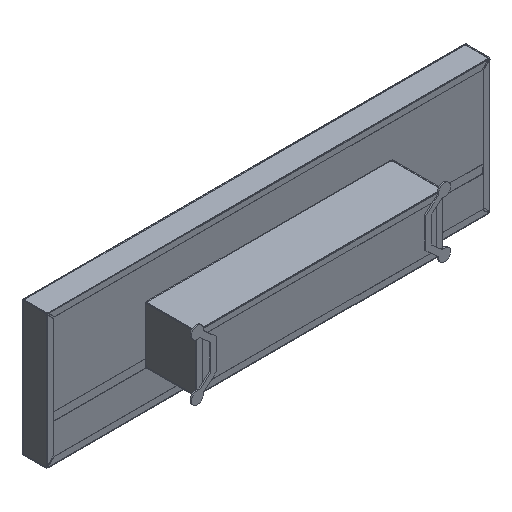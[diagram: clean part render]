
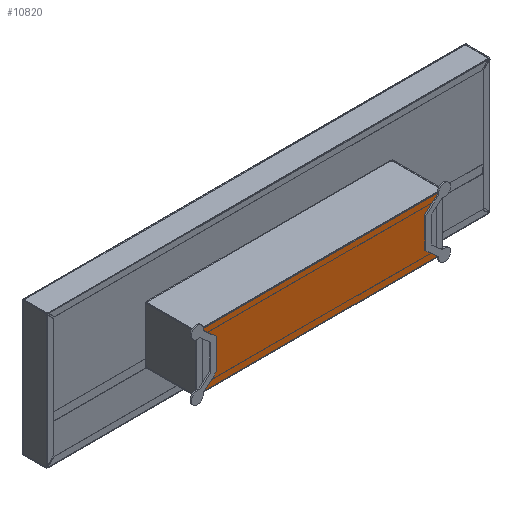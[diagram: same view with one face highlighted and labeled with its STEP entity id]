
A CAD part, isometric view. The second image highlights one B-rep face of the part: STEP entity #10820.
In plain terms, the highlighted planar face has unit normal (0, -1, 0).
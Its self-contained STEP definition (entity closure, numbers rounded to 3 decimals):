
#20 = ORIENTED_EDGE ( 'NONE', *, *, #9102, .F. ) ;
#182 = VECTOR ( 'NONE', #1258, 1000. ) ;
#681 = LINE ( 'NONE', #4247, #12807 ) ;
#814 = EDGE_CURVE ( 'NONE', #5509, #2385, #14401, .T. ) ;
#893 = ORIENTED_EDGE ( 'NONE', *, *, #13949, .F. ) ;
#910 = CARTESIAN_POINT ( 'NONE',  ( 437.639, -1.25, -102.5 ) ) ;
#970 = VECTOR ( 'NONE', #14896, 1000. ) ;
#1201 = CARTESIAN_POINT ( 'NONE',  ( 0., -1.25, 0. ) ) ;
#1216 = CIRCLE ( 'NONE', #12884, 22.5 ) ;
#1219 = EDGE_CURVE ( 'NONE', #9656, #5509, #3533, .T. ) ;
#1246 = DIRECTION ( 'NONE',  ( 0., 0., -1. ) ) ;
#1258 = DIRECTION ( 'NONE',  ( -0.755, 0., 0.656 ) ) ;
#1694 = CIRCLE ( 'NONE', #3154, 22.5 ) ;
#1776 = DIRECTION ( 'NONE',  ( 1., 0., 0. ) ) ;
#2022 = DIRECTION ( 'NONE',  ( 0., 1., 0. ) ) ;
#2102 = CARTESIAN_POINT ( 'NONE',  ( -460., -1.25, 105. ) ) ;
#2126 = CARTESIAN_POINT ( 'NONE',  ( -390., -1.25, 57.4 ) ) ;
#2385 = VERTEX_POINT ( 'NONE', #4465 ) ;
#2492 = DIRECTION ( 'NONE',  ( 0., 0., -1. ) ) ;
#2611 = EDGE_CURVE ( 'NONE', #8231, #11429, #13369, .T. ) ;
#2816 = ORIENTED_EDGE ( 'NONE', *, *, #8618, .F. ) ;
#2938 = DIRECTION ( 'NONE',  ( 0., -1., 0. ) ) ;
#3154 = AXIS2_PLACEMENT_3D ( 'NONE', #13516, #2938, #4152 ) ;
#3158 = CARTESIAN_POINT ( 'NONE',  ( 436.044, -1.25, 97.426 ) ) ;
#3217 = VERTEX_POINT ( 'NONE', #3671 ) ;
#3533 = CIRCLE ( 'NONE', #8142, 22.5 ) ;
#3650 = CIRCLE ( 'NONE', #9485, 22.5 ) ;
#3671 = CARTESIAN_POINT ( 'NONE',  ( -437.639, -1.25, 102.5 ) ) ;
#4152 = DIRECTION ( 'NONE',  ( 0.275, 0., 0.962 ) ) ;
#4247 = CARTESIAN_POINT ( 'NONE',  ( -436.044, -1.25, 97.426 ) ) ;
#4465 = CARTESIAN_POINT ( 'NONE',  ( -437.639, -1.25, -102.5 ) ) ;
#4517 = ORIENTED_EDGE ( 'NONE', *, *, #12835, .T. ) ;
#4533 = CARTESIAN_POINT ( 'NONE',  ( -438.228, -1.25, 99.324 ) ) ;
#4596 = CARTESIAN_POINT ( 'NONE',  ( 390., -1.25, 46.007 ) ) ;
#4816 = EDGE_CURVE ( 'NONE', #11429, #4896, #11451, .T. ) ;
#4863 = DIRECTION ( 'NONE',  ( 0., 0., 1. ) ) ;
#4896 = VERTEX_POINT ( 'NONE', #14123 ) ;
#5304 = ORIENTED_EDGE ( 'NONE', *, *, #11254, .T. ) ;
#5509 = VERTEX_POINT ( 'NONE', #910 ) ;
#5534 = ORIENTED_EDGE ( 'NONE', *, *, #814, .F. ) ;
#5872 = ORIENTED_EDGE ( 'NONE', *, *, #1219, .F. ) ;
#5952 = VECTOR ( 'NONE', #6644, 1000. ) ;
#6151 = ORIENTED_EDGE ( 'NONE', *, *, #10668, .T. ) ;
#6159 = CARTESIAN_POINT ( 'NONE',  ( -457.5, -1.25, -102.5 ) ) ;
#6628 = VECTOR ( 'NONE', #1246, 1000. ) ;
#6644 = DIRECTION ( 'NONE',  ( -0.755, 0., -0.656 ) ) ;
#6667 = DIRECTION ( 'NONE',  ( 0.755, 0., -0.656 ) ) ;
#6964 = DIRECTION ( 'NONE',  ( 0., -1., 0. ) ) ;
#7139 = CARTESIAN_POINT ( 'NONE',  ( -390., -1.25, -46.007 ) ) ;
#7721 = ORIENTED_EDGE ( 'NONE', *, *, #8453, .F. ) ;
#8142 = AXIS2_PLACEMENT_3D ( 'NONE', #14168, #8371, #11943 ) ;
#8231 = VERTEX_POINT ( 'NONE', #10741 ) ;
#8371 = DIRECTION ( 'NONE',  ( 0., -1., 0. ) ) ;
#8389 = VERTEX_POINT ( 'NONE', #2126 ) ;
#8421 = VECTOR ( 'NONE', #14183, 1000. ) ;
#8444 = CARTESIAN_POINT ( 'NONE',  ( 437.639, -1.25, 102.5 ) ) ;
#8453 = EDGE_CURVE ( 'NONE', #13204, #8389, #12865, .T. ) ;
#8457 = VERTEX_POINT ( 'NONE', #8444 ) ;
#8535 = CARTESIAN_POINT ( 'NONE',  ( -390., -1.25, -57.4 ) ) ;
#8618 = EDGE_CURVE ( 'NONE', #2385, #9900, #1694, .T. ) ;
#8774 = EDGE_CURVE ( 'NONE', #9900, #13204, #9942, .T. ) ;
#8801 = ORIENTED_EDGE ( 'NONE', *, *, #4816, .F. ) ;
#8860 = CARTESIAN_POINT ( 'NONE',  ( 390., -1.25, 57.4 ) ) ;
#9102 = EDGE_CURVE ( 'NONE', #8457, #8231, #3650, .T. ) ;
#9113 = FACE_OUTER_BOUND ( 'NONE', #11651, .T. ) ;
#9192 = VECTOR ( 'NONE', #4863, 1000. ) ;
#9442 = ORIENTED_EDGE ( 'NONE', *, *, #8774, .F. ) ;
#9485 = AXIS2_PLACEMENT_3D ( 'NONE', #11259, #6964, #13984 ) ;
#9656 = VERTEX_POINT ( 'NONE', #14187 ) ;
#9774 = LINE ( 'NONE', #10990, #14363 ) ;
#9900 = VERTEX_POINT ( 'NONE', #10592 ) ;
#9942 = LINE ( 'NONE', #14593, #970 ) ;
#10254 = VERTEX_POINT ( 'NONE', #4533 ) ;
#10592 = CARTESIAN_POINT ( 'NONE',  ( -438.228, -1.25, -99.324 ) ) ;
#10668 = EDGE_CURVE ( 'NONE', #10254, #8389, #681, .T. ) ;
#10741 = CARTESIAN_POINT ( 'NONE',  ( 438.228, -1.25, 99.324 ) ) ;
#10820 = ADVANCED_FACE ( 'NONE', ( #9113 ), #11635, .T. ) ;
#10850 = AXIS2_PLACEMENT_3D ( 'NONE', #1201, #13996, #2492 ) ;
#10990 = CARTESIAN_POINT ( 'NONE',  ( 457.5, -1.25, 102.5 ) ) ;
#11254 = EDGE_CURVE ( 'NONE', #9656, #4896, #13752, .T. ) ;
#11259 = CARTESIAN_POINT ( 'NONE',  ( 460., -1.25, 105. ) ) ;
#11429 = VERTEX_POINT ( 'NONE', #8860 ) ;
#11451 = LINE ( 'NONE', #4596, #6628 ) ;
#11578 = ORIENTED_EDGE ( 'NONE', *, *, #2611, .F. ) ;
#11635 = PLANE ( 'NONE',  #10850 ) ;
#11651 = EDGE_LOOP ( 'NONE', ( #5872, #5304, #8801, #11578, #20, #893, #4517, #6151, #7721, #9442, #2816, #5534 ) ) ;
#11943 = DIRECTION ( 'NONE',  ( 0., 0., -1. ) ) ;
#12807 = VECTOR ( 'NONE', #6667, 1000. ) ;
#12835 = EDGE_CURVE ( 'NONE', #3217, #10254, #1216, .T. ) ;
#12837 = CARTESIAN_POINT ( 'NONE',  ( 436.044, -1.25, -97.426 ) ) ;
#12865 = LINE ( 'NONE', #7139, #9192 ) ;
#12884 = AXIS2_PLACEMENT_3D ( 'NONE', #2102, #2022, #14982 ) ;
#13204 = VERTEX_POINT ( 'NONE', #8535 ) ;
#13369 = LINE ( 'NONE', #3158, #5952 ) ;
#13516 = CARTESIAN_POINT ( 'NONE',  ( -460., -1.25, -105. ) ) ;
#13752 = LINE ( 'NONE', #12837, #182 ) ;
#13949 = EDGE_CURVE ( 'NONE', #3217, #8457, #9774, .T. ) ;
#13984 = DIRECTION ( 'NONE',  ( 0., 0., -1. ) ) ;
#13996 = DIRECTION ( 'NONE',  ( 0., -1., 0. ) ) ;
#14123 = CARTESIAN_POINT ( 'NONE',  ( 390., -1.25, -57.4 ) ) ;
#14168 = CARTESIAN_POINT ( 'NONE',  ( 460., -1.25, -105. ) ) ;
#14183 = DIRECTION ( 'NONE',  ( -1., 0., 0. ) ) ;
#14187 = CARTESIAN_POINT ( 'NONE',  ( 438.228, -1.25, -99.324 ) ) ;
#14363 = VECTOR ( 'NONE', #1776, 1000. ) ;
#14401 = LINE ( 'NONE', #6159, #8421 ) ;
#14593 = CARTESIAN_POINT ( 'NONE',  ( -436.044, -1.25, -97.426 ) ) ;
#14896 = DIRECTION ( 'NONE',  ( 0.755, 0., 0.656 ) ) ;
#14982 = DIRECTION ( 'NONE',  ( 0.275, 0., -0.962 ) ) ;
